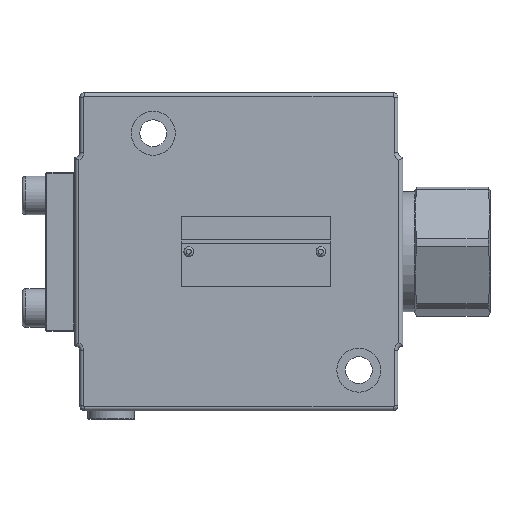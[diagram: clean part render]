
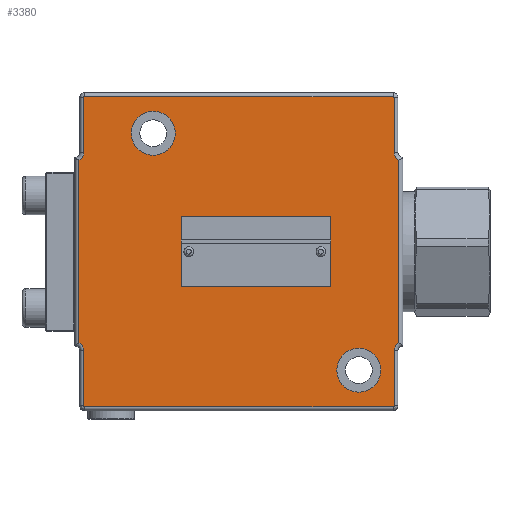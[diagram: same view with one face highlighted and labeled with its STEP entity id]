
A CAD part, front view. The second image highlights one B-rep face of the part: STEP entity #3380.
In plain terms, the highlighted planar face has unit normal (0, -1, 0).
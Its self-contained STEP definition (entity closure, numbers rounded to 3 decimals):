
#2550=PLANE('',#13978);
#3028=FACE_BOUND('',#4765,.T.);
#3029=FACE_BOUND('',#4766,.T.);
#3030=FACE_BOUND('',#4767,.T.);
#3031=FACE_BOUND('',#4768,.T.);
#3032=FACE_BOUND('',#4769,.T.);
#3380=ADVANCED_FACE('',(#3028,#3029,#3030,#3031,#3032),#2550,.F.);
#4765=EDGE_LOOP('',(#6722,#6723,#6724,#6725,#6726,#6727,#6728,#6729,#6730,
#6731,#6732,#6733,#6734,#6735,#6736,#6737));
#4766=EDGE_LOOP('',(#6738));
#4767=EDGE_LOOP('',(#6739));
#4768=EDGE_LOOP('',(#6740));
#4769=EDGE_LOOP('',(#6741));
#5421=CIRCLE('',#13966,0.4);
#5422=CIRCLE('',#13967,0.4);
#5423=CIRCLE('',#13968,3.6);
#5424=CIRCLE('',#13969,3.6);
#5425=CIRCLE('',#13970,0.4);
#5426=CIRCLE('',#13971,0.4);
#5427=CIRCLE('',#13972,3.6);
#5428=CIRCLE('',#13973,3.6);
#5429=CIRCLE('',#13974,0.9);
#5430=CIRCLE('',#13975,0.9);
#5431=CIRCLE('',#13976,9.);
#5432=CIRCLE('',#13977,9.);
#6722=ORIENTED_EDGE('',*,*,#10499,.T.);
#6723=ORIENTED_EDGE('',*,*,#10500,.T.);
#6724=ORIENTED_EDGE('',*,*,#10501,.T.);
#6725=ORIENTED_EDGE('',*,*,#10502,.T.);
#6726=ORIENTED_EDGE('',*,*,#10503,.T.);
#6727=ORIENTED_EDGE('',*,*,#10504,.T.);
#6728=ORIENTED_EDGE('',*,*,#10505,.T.);
#6729=ORIENTED_EDGE('',*,*,#10506,.T.);
#6730=ORIENTED_EDGE('',*,*,#10507,.T.);
#6731=ORIENTED_EDGE('',*,*,#10508,.T.);
#6732=ORIENTED_EDGE('',*,*,#10509,.T.);
#6733=ORIENTED_EDGE('',*,*,#10510,.T.);
#6734=ORIENTED_EDGE('',*,*,#10511,.T.);
#6735=ORIENTED_EDGE('',*,*,#10512,.T.);
#6736=ORIENTED_EDGE('',*,*,#10513,.T.);
#6737=ORIENTED_EDGE('',*,*,#10514,.T.);
#6738=ORIENTED_EDGE('',*,*,#10515,.T.);
#6739=ORIENTED_EDGE('',*,*,#10516,.T.);
#6740=ORIENTED_EDGE('',*,*,#10517,.F.);
#6741=ORIENTED_EDGE('',*,*,#10518,.T.);
#9290=VERTEX_POINT('',#37345);
#9291=VERTEX_POINT('',#37346);
#9292=VERTEX_POINT('',#37348);
#9293=VERTEX_POINT('',#37350);
#9294=VERTEX_POINT('',#37352);
#9295=VERTEX_POINT('',#37354);
#9296=VERTEX_POINT('',#37356);
#9297=VERTEX_POINT('',#37358);
#9298=VERTEX_POINT('',#37360);
#9299=VERTEX_POINT('',#37362);
#9300=VERTEX_POINT('',#37364);
#9301=VERTEX_POINT('',#37366);
#9302=VERTEX_POINT('',#37368);
#9303=VERTEX_POINT('',#37370);
#9304=VERTEX_POINT('',#37372);
#9305=VERTEX_POINT('',#37374);
#9306=VERTEX_POINT('',#37377);
#9307=VERTEX_POINT('',#37379);
#9308=VERTEX_POINT('',#37381);
#9309=VERTEX_POINT('',#37383);
#10499=EDGE_CURVE('',#9290,#9291,#5421,.T.);
#10500=EDGE_CURVE('',#9291,#9292,#11786,.T.);
#10501=EDGE_CURVE('',#9292,#9293,#5422,.T.);
#10502=EDGE_CURVE('',#9293,#9294,#11787,.T.);
#10503=EDGE_CURVE('',#9294,#9295,#5423,.T.);
#10504=EDGE_CURVE('',#9295,#9296,#11788,.T.);
#10505=EDGE_CURVE('',#9296,#9297,#5424,.T.);
#10506=EDGE_CURVE('',#9297,#9298,#11789,.T.);
#10507=EDGE_CURVE('',#9298,#9299,#5425,.T.);
#10508=EDGE_CURVE('',#9299,#9300,#11790,.T.);
#10509=EDGE_CURVE('',#9300,#9301,#5426,.T.);
#10510=EDGE_CURVE('',#9301,#9302,#11791,.T.);
#10511=EDGE_CURVE('',#9302,#9303,#5427,.T.);
#10512=EDGE_CURVE('',#9303,#9304,#11792,.T.);
#10513=EDGE_CURVE('',#9304,#9305,#5428,.T.);
#10514=EDGE_CURVE('',#9305,#9290,#11793,.T.);
#10515=EDGE_CURVE('',#9306,#9306,#5429,.T.);
#10516=EDGE_CURVE('',#9307,#9307,#5430,.T.);
#10517=EDGE_CURVE('',#9308,#9308,#5431,.T.);
#10518=EDGE_CURVE('',#9309,#9309,#5432,.T.);
#11786=LINE('',#37347,#12796);
#11787=LINE('',#37351,#12797);
#11788=LINE('',#37355,#12798);
#11789=LINE('',#37359,#12799);
#11790=LINE('',#37363,#12800);
#11791=LINE('',#37367,#12801);
#11792=LINE('',#37371,#12802);
#11793=LINE('',#37375,#12803);
#12796=VECTOR('',#15472,1.);
#12797=VECTOR('',#15475,1.);
#12798=VECTOR('',#15478,1.);
#12799=VECTOR('',#15481,1.);
#12800=VECTOR('',#15484,1.);
#12801=VECTOR('',#15487,1.);
#12802=VECTOR('',#15490,1.);
#12803=VECTOR('',#15493,1.);
#13966=AXIS2_PLACEMENT_3D('',#37344,#15470,#15471);
#13967=AXIS2_PLACEMENT_3D('',#37349,#15473,#15474);
#13968=AXIS2_PLACEMENT_3D('',#37353,#15476,#15477);
#13969=AXIS2_PLACEMENT_3D('',#37357,#15479,#15480);
#13970=AXIS2_PLACEMENT_3D('',#37361,#15482,#15483);
#13971=AXIS2_PLACEMENT_3D('',#37365,#15485,#15486);
#13972=AXIS2_PLACEMENT_3D('',#37369,#15488,#15489);
#13973=AXIS2_PLACEMENT_3D('',#37373,#15491,#15492);
#13974=AXIS2_PLACEMENT_3D('',#37376,#15494,#15495);
#13975=AXIS2_PLACEMENT_3D('',#37378,#15496,#15497);
#13976=AXIS2_PLACEMENT_3D('',#37380,#15498,#15499);
#13977=AXIS2_PLACEMENT_3D('',#37382,#15500,#15501);
#13978=AXIS2_PLACEMENT_3D('',#37384,#15502,#15503);
#15470=DIRECTION('',(0.,-1.,0.));
#15471=DIRECTION('',(0.,0.,1.));
#15472=DIRECTION('',(-1.,0.,0.));
#15473=DIRECTION('',(0.,-1.,0.));
#15474=DIRECTION('',(0.,0.,1.));
#15475=DIRECTION('',(0.,0.,-1.));
#15476=DIRECTION('',(0.,1.,0.));
#15477=DIRECTION('',(0.,0.,1.));
#15478=DIRECTION('',(0.,0.,-1.));
#15479=DIRECTION('',(0.,1.,0.));
#15480=DIRECTION('',(0.,0.,1.));
#15481=DIRECTION('',(0.,0.,-1.));
#15482=DIRECTION('',(0.,-1.,0.));
#15483=DIRECTION('',(0.,0.,1.));
#15484=DIRECTION('',(1.,0.,0.));
#15485=DIRECTION('',(0.,-1.,0.));
#15486=DIRECTION('',(0.,0.,1.));
#15487=DIRECTION('',(0.,0.,1.));
#15488=DIRECTION('',(0.,1.,0.));
#15489=DIRECTION('',(0.,0.,1.));
#15490=DIRECTION('',(0.,0.,1.));
#15491=DIRECTION('',(0.,1.,0.));
#15492=DIRECTION('',(0.,0.,1.));
#15493=DIRECTION('',(0.,0.,1.));
#15494=DIRECTION('',(0.,1.,0.));
#15495=DIRECTION('',(0.,0.,1.));
#15496=DIRECTION('',(0.,1.,0.));
#15497=DIRECTION('',(0.,0.,1.));
#15498=DIRECTION('',(0.,-1.,0.));
#15499=DIRECTION('',(1.,0.,0.));
#15500=DIRECTION('',(0.,1.,0.));
#15501=DIRECTION('',(1.,0.,0.));
#15502=DIRECTION('',(0.,1.,0.));
#15503=DIRECTION('',(1.,0.,0.));
#37344=CARTESIAN_POINT('',(751.462,246.116,63.));
#37345=CARTESIAN_POINT('',(751.862,246.116,63.));
#37346=CARTESIAN_POINT('',(751.462,246.116,63.4));
#37347=CARTESIAN_POINT('',(625.462,246.116,63.4));
#37348=CARTESIAN_POINT('',(625.462,246.116,63.4));
#37349=CARTESIAN_POINT('',(625.462,246.116,63.));
#37350=CARTESIAN_POINT('',(625.062,246.116,63.));
#37351=CARTESIAN_POINT('',(625.062,246.116,40.5));
#37352=CARTESIAN_POINT('',(625.062,246.116,40.5));
#37353=CARTESIAN_POINT('',(621.462,246.116,40.5));
#37354=CARTESIAN_POINT('',(623.062,246.116,37.275));
#37355=CARTESIAN_POINT('',(623.062,246.116,-38.5));
#37356=CARTESIAN_POINT('',(623.062,246.116,-37.275));
#37357=CARTESIAN_POINT('',(621.462,246.116,-40.5));
#37358=CARTESIAN_POINT('',(625.062,246.116,-40.5));
#37359=CARTESIAN_POINT('',(625.062,246.116,-63.));
#37360=CARTESIAN_POINT('',(625.062,246.116,-63.));
#37361=CARTESIAN_POINT('',(625.462,246.116,-63.));
#37362=CARTESIAN_POINT('',(625.462,246.116,-63.4));
#37363=CARTESIAN_POINT('',(751.462,246.116,-63.4));
#37364=CARTESIAN_POINT('',(751.462,246.116,-63.4));
#37365=CARTESIAN_POINT('',(751.462,246.116,-63.));
#37366=CARTESIAN_POINT('',(751.862,246.116,-63.));
#37367=CARTESIAN_POINT('',(751.862,246.116,-40.5));
#37368=CARTESIAN_POINT('',(751.862,246.116,-40.5));
#37369=CARTESIAN_POINT('',(755.462,246.116,-40.5));
#37370=CARTESIAN_POINT('',(753.862,246.116,-37.275));
#37371=CARTESIAN_POINT('',(753.862,246.116,38.5));
#37372=CARTESIAN_POINT('',(753.862,246.116,37.275));
#37373=CARTESIAN_POINT('',(755.462,246.116,40.5));
#37374=CARTESIAN_POINT('',(751.862,246.116,40.5));
#37375=CARTESIAN_POINT('',(751.862,246.116,63.));
#37376=CARTESIAN_POINT('',(721.962,246.116,0.));
#37377=CARTESIAN_POINT('',(721.962,246.116,0.9));
#37378=CARTESIAN_POINT('',(667.962,246.116,0.));
#37379=CARTESIAN_POINT('',(667.962,246.116,0.9));
#37380=CARTESIAN_POINT('',(737.462,246.116,-48.4));
#37381=CARTESIAN_POINT('',(746.462,246.116,-48.4));
#37382=CARTESIAN_POINT('',(653.462,246.116,48.4));
#37383=CARTESIAN_POINT('',(662.462,246.116,48.4));
#37384=CARTESIAN_POINT('',(751.462,246.116,63.));
